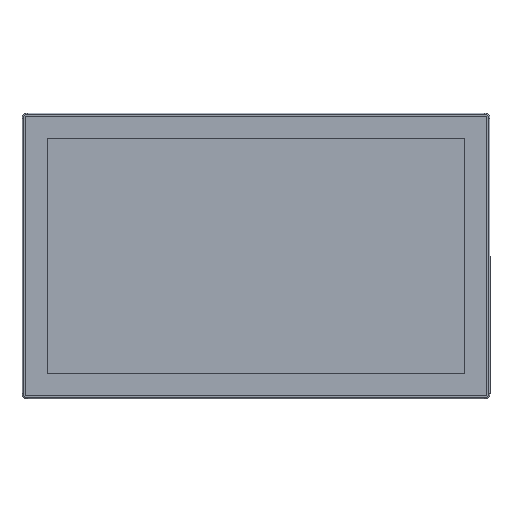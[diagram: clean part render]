
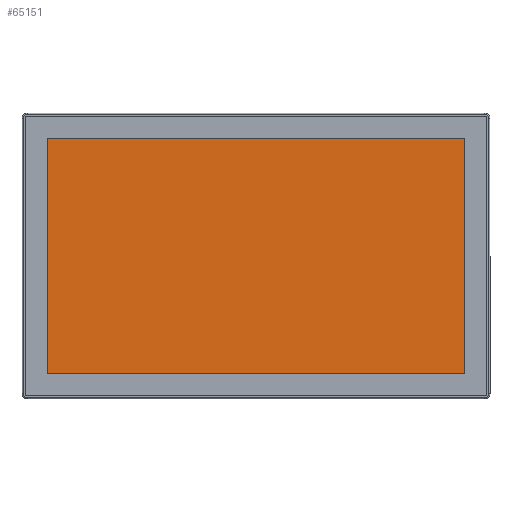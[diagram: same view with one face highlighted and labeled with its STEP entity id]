
A CAD part, top view. The second image highlights one B-rep face of the part: STEP entity #65151.
In plain terms, the highlighted planar face has unit normal (0, 0, 1).
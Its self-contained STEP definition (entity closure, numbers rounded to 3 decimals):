
#1377 = DIRECTION ( 'NONE',  ( -1., 0., 0. ) ) ;
#11366 = EDGE_CURVE ( 'NONE', #47048, #49044, #82334, .T. ) ;
#16037 = CARTESIAN_POINT ( 'NONE',  ( 205.08, 115.62, -0.05 ) ) ;
#19796 = AXIS2_PLACEMENT_3D ( 'NONE', #99520, #73613, #27095 ) ;
#20146 = CARTESIAN_POINT ( 'NONE',  ( 205.08, -115.62, -0.05 ) ) ;
#27095 = DIRECTION ( 'NONE',  ( 1., 0., 0. ) ) ;
#32553 = VERTEX_POINT ( 'NONE', #108701 ) ;
#34800 = VERTEX_POINT ( 'NONE', #16037 ) ;
#36714 = CARTESIAN_POINT ( 'NONE',  ( 205.08, -115.62, -0.05 ) ) ;
#45655 = DIRECTION ( 'NONE',  ( 1., 0., 0. ) ) ;
#47048 = VERTEX_POINT ( 'NONE', #85685 ) ;
#47517 = EDGE_LOOP ( 'NONE', ( #60226, #117664, #113530, #105790 ) ) ;
#48242 = DIRECTION ( 'NONE',  ( 0., -1., 0. ) ) ;
#49044 = VERTEX_POINT ( 'NONE', #36714 ) ;
#51226 = CARTESIAN_POINT ( 'NONE',  ( 205.08, 115.62, -0.05 ) ) ;
#51988 = VECTOR ( 'NONE', #1377, 1000. ) ;
#56003 = CARTESIAN_POINT ( 'NONE',  ( -205.08, -115.62, -0.05 ) ) ;
#57102 = EDGE_CURVE ( 'NONE', #32553, #47048, #94757, .T. ) ;
#60226 = ORIENTED_EDGE ( 'NONE', *, *, #57102, .T. ) ;
#65151 = ADVANCED_FACE ( 'NONE', ( #107547 ), #87318, .T. ) ;
#73613 = DIRECTION ( 'NONE',  ( 0., 0., 1. ) ) ;
#76353 = CARTESIAN_POINT ( 'NONE',  ( -205.08, 115.62, -0.05 ) ) ;
#78543 = EDGE_CURVE ( 'NONE', #49044, #34800, #93634, .T. ) ;
#79516 = VECTOR ( 'NONE', #45655, 1000. ) ;
#82334 = LINE ( 'NONE', #56003, #79516 ) ;
#85080 = LINE ( 'NONE', #51226, #51988 ) ;
#85685 = CARTESIAN_POINT ( 'NONE',  ( -205.08, -115.62, -0.05 ) ) ;
#86433 = EDGE_CURVE ( 'NONE', #34800, #32553, #85080, .T. ) ;
#87318 = PLANE ( 'NONE',  #19796 ) ;
#93634 = LINE ( 'NONE', #20146, #120435 ) ;
#94757 = LINE ( 'NONE', #76353, #114773 ) ;
#99520 = CARTESIAN_POINT ( 'NONE',  ( 0., 0., -0.05 ) ) ;
#105790 = ORIENTED_EDGE ( 'NONE', *, *, #86433, .T. ) ;
#107547 = FACE_OUTER_BOUND ( 'NONE', #47517, .T. ) ;
#108701 = CARTESIAN_POINT ( 'NONE',  ( -205.08, 115.62, -0.05 ) ) ;
#113530 = ORIENTED_EDGE ( 'NONE', *, *, #78543, .T. ) ;
#113818 = DIRECTION ( 'NONE',  ( 0., 1., 0. ) ) ;
#114773 = VECTOR ( 'NONE', #48242, 1000. ) ;
#117664 = ORIENTED_EDGE ( 'NONE', *, *, #11366, .T. ) ;
#120435 = VECTOR ( 'NONE', #113818, 1000. ) ;
